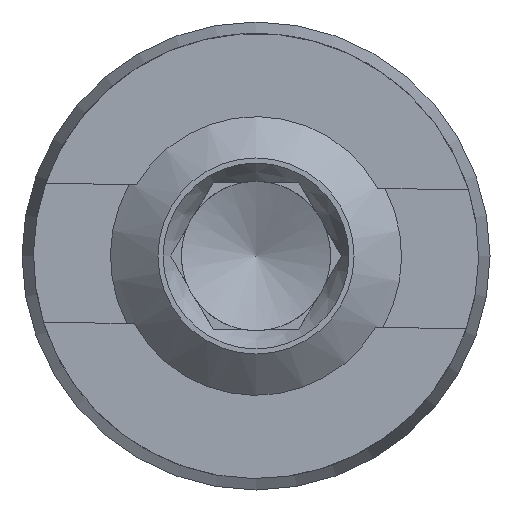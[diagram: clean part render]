
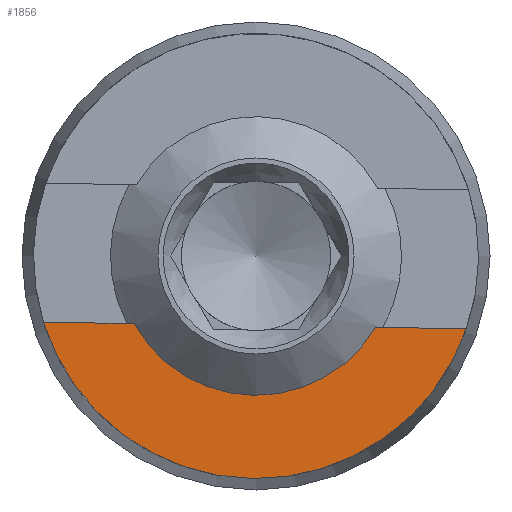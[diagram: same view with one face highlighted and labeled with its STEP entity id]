
A CAD part, left-side view. The second image highlights one B-rep face of the part: STEP entity #1856.
In plain terms, the highlighted planar face has unit normal (-1, 0, 0) as drawn and (0, -1, 0) by its records, which use the part's own axes.
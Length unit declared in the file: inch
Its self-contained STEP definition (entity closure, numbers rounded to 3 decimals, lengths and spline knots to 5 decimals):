
#49 = CARTESIAN_POINT ( 'NONE',  ( -0.28453, 0., -0.0935 ) ) ;
#104 = CARTESIAN_POINT ( 'NONE',  ( -0.2995, 0., -0.0935 ) ) ;
#123 = CARTESIAN_POINT ( 'NONE',  ( 0.28453, 0., -0.0935 ) ) ;
#133 = EDGE_CURVE ( 'NONE', #670, #2425, #2121, .T. ) ;
#407 = CIRCLE ( 'NONE', #2295, 0.2995 ) ;
#448 = AXIS2_PLACEMENT_3D ( 'NONE', #1189, #1203, #1691 ) ;
#475 = EDGE_CURVE ( 'NONE', #1034, #863, #407, .T. ) ;
#531 = DIRECTION ( 'NONE',  ( 0., -1., 0. ) ) ;
#542 = DIRECTION ( 'NONE',  ( 0., 0., -1. ) ) ;
#670 = VERTEX_POINT ( 'NONE', #1503 ) ;
#697 = ORIENTED_EDGE ( 'NONE', *, *, #133, .F. ) ;
#754 = CARTESIAN_POINT ( 'NONE',  ( 0., 0., 0. ) ) ;
#761 = FACE_OUTER_BOUND ( 'NONE', #2728, .T. ) ;
#863 = VERTEX_POINT ( 'NONE', #123 ) ;
#975 = DIRECTION ( 'NONE',  ( 0., -1., 0. ) ) ;
#1034 = VERTEX_POINT ( 'NONE', #49 ) ;
#1058 = EDGE_CURVE ( 'NONE', #2425, #863, #2534, .T. ) ;
#1072 = AXIS2_PLACEMENT_3D ( 'NONE', #1359, #975, #2187 ) ;
#1129 = DIRECTION ( 'NONE',  ( 1., 0., 0. ) ) ;
#1176 = EDGE_CURVE ( 'NONE', #1034, #670, #1406, .T. ) ;
#1189 = CARTESIAN_POINT ( 'NONE',  ( 0., 0., 0. ) ) ;
#1203 = DIRECTION ( 'NONE',  ( 0., -1., 0. ) ) ;
#1326 = ORIENTED_EDGE ( 'NONE', *, *, #1058, .F. ) ;
#1348 = DIRECTION ( 'NONE',  ( 1., 0., 0. ) ) ;
#1359 = CARTESIAN_POINT ( 'NONE',  ( 0.2995, 0., 0. ) ) ;
#1379 = CARTESIAN_POINT ( 'NONE',  ( 0.16252, 0., -0.0935 ) ) ;
#1388 = VECTOR ( 'NONE', #1129, 39.37008 ) ;
#1406 = LINE ( 'NONE', #104, #1556 ) ;
#1457 = ORIENTED_EDGE ( 'NONE', *, *, #475, .T. ) ;
#1490 = CARTESIAN_POINT ( 'NONE',  ( -0.2995, 0., -0.0935 ) ) ;
#1503 = CARTESIAN_POINT ( 'NONE',  ( -0.16252, 0., -0.0935 ) ) ;
#1556 = VECTOR ( 'NONE', #1348, 39.37008 ) ;
#1574 = PLANE ( 'NONE',  #1072 ) ;
#1691 = DIRECTION ( 'NONE',  ( 0., 0., -1. ) ) ;
#1856 = ADVANCED_FACE ( 'NONE', ( #761 ), #1574, .T. ) ;
#2121 = CIRCLE ( 'NONE', #448, 0.1875 ) ;
#2186 = ORIENTED_EDGE ( 'NONE', *, *, #1176, .F. ) ;
#2187 = DIRECTION ( 'NONE',  ( 0., 0., -1. ) ) ;
#2295 = AXIS2_PLACEMENT_3D ( 'NONE', #754, #531, #542 ) ;
#2425 = VERTEX_POINT ( 'NONE', #1379 ) ;
#2534 = LINE ( 'NONE', #1490, #1388 ) ;
#2728 = EDGE_LOOP ( 'NONE', ( #2186, #1457, #1326, #697 ) ) ;
